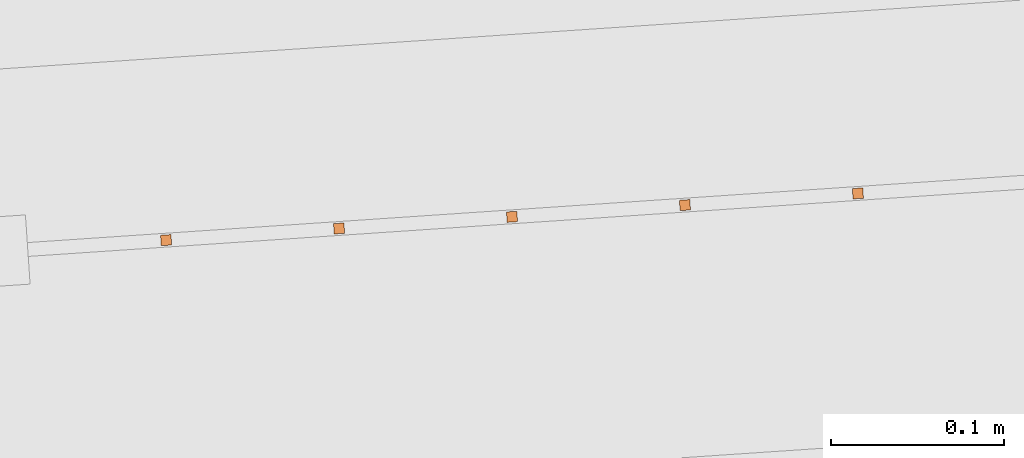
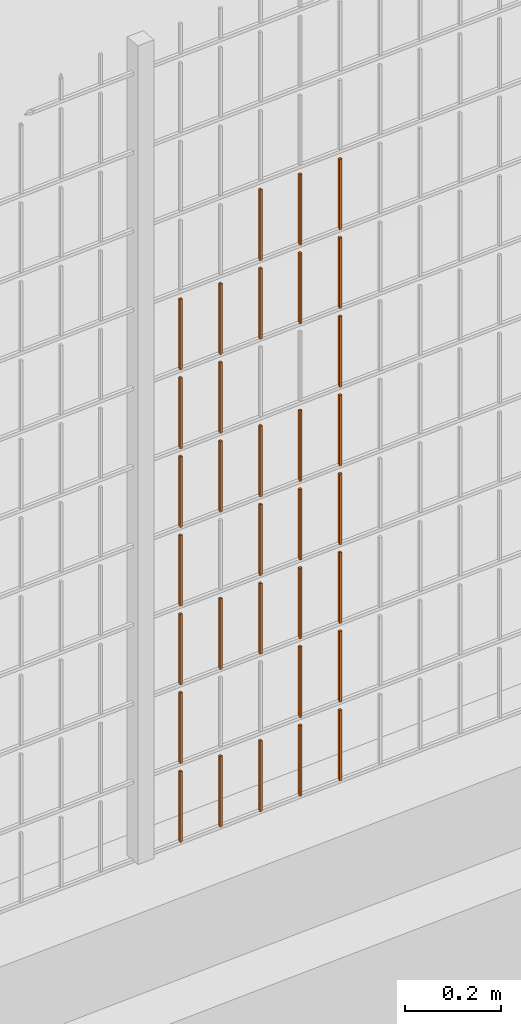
# One storey, part 343 of 1809: 33 proxies, 1 element without a shape of its own.
"""IFC2X3 building model written with IfcOpenShell, lengths in millimetres."""

from ifc_helpers import new_model, entity, si_unit, converted_unit, derived_unit, money_unit, direction, frame, origin_with_axes, place, context, subcontext, project, spatial, faceted_brep, source, transform, mapped, material, type_object, element, aggregate, save


model = new_model("IFC2X3")

# Units and contexts
model_context = context("Model", 3, precision=0.01, world=origin_with_axes(), true_north=direction((0.0, 1.0)))
body_context = subcontext(model_context, "Body", "Model", "MODEL_VIEW")
ifc_project = project(units=[si_unit("LENGTHUNIT", "METRE", prefix="MILLI"), si_unit("AREAUNIT", "SQUARE_METRE"), si_unit("VOLUMEUNIT", "CUBIC_METRE"), converted_unit("PLANEANGLEUNIT", "DEGREE", entity("IfcPlaneAngleMeasure", 0.0174532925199), si_unit("PLANEANGLEUNIT", "RADIAN"), dimensions=[0, 0, 0, 0, 0, 0, 0]), si_unit("SOLIDANGLEUNIT", "STERADIAN"), money_unit("EUR"), converted_unit("TIMEUNIT", "Year", entity("IfcTimeMeasure", 31556926.0), si_unit("TIMEUNIT", "SECOND"), dimensions=[0, 0, 1, 0, 0, 0, 0]), si_unit("MASSUNIT", "GRAM", prefix="KILO"), si_unit("THERMODYNAMICTEMPERATUREUNIT", "DEGREE_CELSIUS"), si_unit("LUMINOUSINTENSITYUNIT", "LUMEN"), si_unit("ENERGYUNIT", "JOULE", prefix="MEGA"), derived_unit("THERMALCONDUCTANCEUNIT", [(si_unit("POWERUNIT", "WATT"), 1), (si_unit("LENGTHUNIT", "METRE"), -1), (si_unit("THERMODYNAMICTEMPERATUREUNIT", "KELVIN"), -1)]), derived_unit("SPECIFICHEATCAPACITYUNIT", [(si_unit("ENERGYUNIT", "JOULE"), 1), (si_unit("MASSUNIT", "GRAM", prefix="KILO"), -1), (si_unit("THERMODYNAMICTEMPERATUREUNIT", "KELVIN"), -1)]), derived_unit("MASSDENSITYUNIT", [(si_unit("MASSUNIT", "GRAM", prefix="KILO"), 1), (si_unit("VOLUMEUNIT", "CUBIC_METRE"), -1)])], contexts=[model_context])

# Site, building, storey
site_placement = place(None, origin_with_axes())
site = spatial("IfcSite", under=ifc_project, at=site_placement, Name="Politse- ja Piirivalveameti ning Päästeameti ühishoone", CompositionType="ELEMENT")
building_placement = place(site_placement, origin_with_axes())
building = spatial("IfcBuilding", under=site, at=building_placement, Name="Politse- ja Piirivalveameti ning Päästeameti ühishoone", CompositionType="ELEMENT")
storey_placement = place(building_placement, origin_with_axes())
storey = spatial("IfcBuildingStorey", under=building, at=storey_placement, Name="Esimene korrus", CompositionType="ELEMENT", Elevation=0.0)

# Proxies
building_element_proxy_type_1 = type_object("IfcBuildingElementProxyType", Name="Railing Type", PredefinedType="NOTDEFINED")
proxy_1_placement = place(storey_placement, frame((89252.001212, -29183.4766571, 203.661247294), z_axis=(0.0, 0.0, 1.0), x_axis=(1.0, 0.0, 0.0)))
proxy_1 = element("IfcBuildingElementProxy", 1, at=proxy_1_placement, inside=storey, type_object=building_element_proxy_type_1, Name="PIIRDEAED")
ifc_material = material(Name="ET-03_Raud")
building_element_proxy_type_2 = type_object("IfcBuildingElementProxyType", Name="IfcBuildingElementProxy", PredefinedType="NOTDEFINED")
shared_shape_1 = source(origin_with_axes(), body_context, "Body", "Brep", [
    faceted_brep([(3.0, 3.0, -0.000752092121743), (-3.0, 3.0, -0.000752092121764), (-3.0, 3.0, 179.99926046), (3.0, 3.0, 179.99926046), (3.0, -3.0, 0.000752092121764), (-3.0, -3.0, 0.000752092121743), (-3.0, -3.0, 180.000764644), (3.0, -3.0, 180.000764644)], [[[0, 1, 2, 3]], [[0, 4, 5, 1]], [[1, 5, 6, 2]], [[3, 2, 6, 7]], [[4, 0, 3, 7]], [[5, 4, 7, 6]]]),
])
proxy_2_placement = place(proxy_1_placement, frame((-29359.787284, -19280.9175928, 19.8571921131), z_axis=(0.0, 0.0, 1.0), x_axis=(1.0, 0.0, 0.0)))
proxy_2 = element("IfcBuildingElementProxy", 2, at=proxy_2_placement, type_object=building_element_proxy_type_2, material=ifc_material, Name="BALUSTER - 001", context=body_context, shape_type="MappedRepresentation", body=[
    mapped(shared_shape_1, transform((0.0, 0.0, 0.0), x_axis=(-0.0673926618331, 0.997726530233, 0.0), y_axis=(-0.997726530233, -0.0673926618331, 0.0), z_axis=(0.0, 0.0, 1.0))),
])
proxy_3_placement = place(proxy_1_placement, frame((-29260.014631, -19274.1783266, 1419.88226185), z_axis=(0.0, 0.0, 1.0), x_axis=(1.0, 0.0, 0.0)))
proxy_3 = element("IfcBuildingElementProxy", 3, at=proxy_3_placement, type_object=building_element_proxy_type_2, material=ifc_material, Name="BALUSTER - 001", context=body_context, shape_type="MappedRepresentation", body=[
    mapped(shared_shape_1, transform((0.0, 0.0, 0.0), x_axis=(-0.0673926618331, 0.997726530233, 0.0), y_axis=(-0.997726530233, -0.0673926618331, 0.0), z_axis=(0.0, 0.0, 1.0))),
])
shared_shape_2 = source(origin_with_axes(), body_context, "Body", "Brep", [
    faceted_brep([(3.0, 3.0, -0.000752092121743), (-3.0, 3.0, -0.000752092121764), (-3.0, 3.0, 179.99926046), (3.0, 3.0, 179.99926046), (3.0, -3.0, 0.000752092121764), (-3.0, -3.0, 0.000752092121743), (-3.0, -3.0, 180.000764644), (3.0, -3.0, 180.000764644)], [[[0, 1, 2, 3]], [[0, 4, 5, 1]], [[1, 5, 6, 2]], [[3, 2, 6, 7]], [[4, 0, 3, 7]], [[5, 4, 7, 6]]]),
])
proxy_4_placement = place(proxy_1_placement, frame((-29359.787284, -19280.9175928, 219.857192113), z_axis=(0.0, 0.0, 1.0), x_axis=(1.0, 0.0, 0.0)))
proxy_4 = element("IfcBuildingElementProxy", 4, at=proxy_4_placement, type_object=building_element_proxy_type_2, material=ifc_material, Name="BALUSTER - 001", context=body_context, shape_type="MappedRepresentation", body=[
    mapped(shared_shape_2, transform((0.0, 0.0, 0.0), x_axis=(-0.0673926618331, 0.997726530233, 0.0), y_axis=(-0.997726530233, -0.0673926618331, 0.0), z_axis=(0.0, 0.0, 1.0))),
])
shared_shape_3 = source(origin_with_axes(), body_context, "Body", "Brep", [
    faceted_brep([(3.0, 3.0, -0.000752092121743), (-3.0, 3.0, -0.000752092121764), (-3.0, 3.0, 179.99926046), (3.0, 3.0, 179.99926046), (3.0, -3.0, 0.000752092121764), (-3.0, -3.0, 0.000752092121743), (-3.0, -3.0, 180.000764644), (3.0, -3.0, 180.000764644)], [[[0, 1, 2, 3]], [[0, 4, 5, 1]], [[1, 5, 6, 2]], [[3, 2, 6, 7]], [[4, 0, 3, 7]], [[5, 4, 7, 6]]]),
])
proxy_5_placement = place(proxy_1_placement, frame((-29359.787284, -19280.9175928, 419.857192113), z_axis=(0.0, 0.0, 1.0), x_axis=(1.0, 0.0, 0.0)))
proxy_5 = element("IfcBuildingElementProxy", 5, at=proxy_5_placement, type_object=building_element_proxy_type_2, material=ifc_material, Name="BALUSTER - 001", context=body_context, shape_type="MappedRepresentation", body=[
    mapped(shared_shape_3, transform((0.0, 0.0, 0.0), x_axis=(-0.0673926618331, 0.997726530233, 0.0), y_axis=(-0.997726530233, -0.0673926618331, 0.0), z_axis=(0.0, 0.0, 1.0))),
])
shared_shape_4 = source(origin_with_axes(), body_context, "Body", "Brep", [
    faceted_brep([(3.0, 3.0, -0.000752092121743), (-3.0, 3.0, -0.000752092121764), (-3.0, 3.0, 179.99926046), (3.0, 3.0, 179.99926046), (3.0, -3.0, 0.000752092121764), (-3.0, -3.0, 0.000752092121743), (-3.0, -3.0, 180.000764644), (3.0, -3.0, 180.000764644)], [[[0, 1, 2, 3]], [[0, 4, 5, 1]], [[1, 5, 6, 2]], [[3, 2, 6, 7]], [[4, 0, 3, 7]], [[5, 4, 7, 6]]]),
])
proxy_6_placement = place(proxy_1_placement, frame((-29359.787284, -19280.9175928, 819.857192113), z_axis=(0.0, 0.0, 1.0), x_axis=(1.0, 0.0, 0.0)))
proxy_6 = element("IfcBuildingElementProxy", 6, at=proxy_6_placement, type_object=building_element_proxy_type_2, material=ifc_material, Name="BALUSTER - 001", context=body_context, shape_type="MappedRepresentation", body=[
    mapped(shared_shape_4, transform((0.0, 0.0, 0.0), x_axis=(-0.0673926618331, 0.997726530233, 0.0), y_axis=(-0.997726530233, -0.0673926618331, 0.0), z_axis=(0.0, 0.0, 1.0))),
])
proxy_7_placement = place(proxy_1_placement, frame((-29260.014631, -19274.1783266, 1219.88226185), z_axis=(0.0, 0.0, 1.0), x_axis=(1.0, 0.0, 0.0)))
proxy_7 = element("IfcBuildingElementProxy", 7, at=proxy_7_placement, type_object=building_element_proxy_type_2, material=ifc_material, Name="BALUSTER - 001", context=body_context, shape_type="MappedRepresentation", body=[
    mapped(shared_shape_4, transform((0.0, 0.0, 0.0), x_axis=(-0.0673926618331, 0.997726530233, 0.0), y_axis=(-0.997726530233, -0.0673926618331, 0.0), z_axis=(0.0, 0.0, 1.0))),
])
shared_shape_5 = source(origin_with_axes(), body_context, "Body", "Brep", [
    faceted_brep([(3.0, 3.0, -0.000752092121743), (-3.0, 3.0, -0.000752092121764), (-3.0, 3.0, 179.99926046), (3.0, 3.0, 179.99926046), (3.0, -3.0, 0.000752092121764), (-3.0, -3.0, 0.000752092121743), (-3.0, -3.0, 180.000764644), (3.0, -3.0, 180.000764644)], [[[0, 1, 2, 3]], [[0, 4, 5, 1]], [[1, 5, 6, 2]], [[3, 2, 6, 7]], [[4, 0, 3, 7]], [[5, 4, 7, 6]]]),
])
proxy_8_placement = place(proxy_1_placement, frame((-29359.787284, -19280.9175928, 619.857192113), z_axis=(0.0, 0.0, 1.0), x_axis=(1.0, 0.0, 0.0)))
proxy_8 = element("IfcBuildingElementProxy", 8, at=proxy_8_placement, type_object=building_element_proxy_type_2, material=ifc_material, Name="BALUSTER - 001", context=body_context, shape_type="MappedRepresentation", body=[
    mapped(shared_shape_5, transform((0.0, 0.0, 0.0), x_axis=(-0.0673926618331, 0.997726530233, 0.0), y_axis=(-0.997726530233, -0.0673926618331, 0.0), z_axis=(0.0, 0.0, 1.0))),
])
shared_shape_6 = source(origin_with_axes(), body_context, "Body", "Brep", [
    faceted_brep([(3.0, 3.0, -0.000752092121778), (-3.0, 3.0, -0.000752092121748), (-3.00000000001, 2.99999999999, 179.99926046), (2.99999999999, 2.99999999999, 179.99926046), (3.0, -3.0, 0.000752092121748), (-3.0, -3.0, 0.000752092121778), (-3.00000000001, -3.00000000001, 180.000764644), (2.99999999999, -3.00000000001, 180.000764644)], [[[0, 1, 2, 3]], [[0, 4, 5, 1]], [[1, 5, 6, 2]], [[3, 2, 6, 7]], [[4, 0, 3, 7]], [[5, 4, 7, 6]]]),
])
proxy_9_placement = place(proxy_1_placement, frame((-29559.3325901, -19294.3961252, 1019.80705264), z_axis=(0.0, 0.0, 1.0), x_axis=(1.0, 0.0, 0.0)))
proxy_9 = element("IfcBuildingElementProxy", 9, at=proxy_9_placement, type_object=building_element_proxy_type_2, material=ifc_material, Name="BALUSTER - 001", context=body_context, shape_type="MappedRepresentation", body=[
    mapped(shared_shape_6, transform((0.0, 0.0, 0.0), x_axis=(-0.0673926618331, 0.997726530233, 0.0), y_axis=(-0.997726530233, -0.0673926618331, 0.0), z_axis=(0.0, 0.0, 1.0))),
])
shared_shape_7 = source(origin_with_axes(), body_context, "Body", "Brep", [
    faceted_brep([(3.0, 3.0, -0.000752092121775), (-3.0, 3.0, -0.000752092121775), (-3.0, 3.0, 179.99926046), (3.0, 3.0, 179.99926046), (3.0, -3.0, 0.000752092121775), (-3.0, -3.0, 0.000752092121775), (-3.0, -3.0, 180.000764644), (3.0, -3.0, 180.000764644)], [[[0, 1, 2, 3]], [[0, 4, 5, 1]], [[1, 5, 6, 2]], [[3, 2, 6, 7]], [[4, 0, 3, 7]], [[5, 4, 7, 6]]]),
])
proxy_10_placement = place(proxy_1_placement, frame((-29659.1052431, -19301.1353914, 19.7819829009), z_axis=(0.0, 0.0, 1.0), x_axis=(1.0, 0.0, 0.0)))
proxy_10 = element("IfcBuildingElementProxy", 10, at=proxy_10_placement, type_object=building_element_proxy_type_2, material=ifc_material, Name="BALUSTER - 001", context=body_context, shape_type="MappedRepresentation", body=[
    mapped(shared_shape_7, transform((0.0, 0.0, 0.0), x_axis=(-0.0673926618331, 0.997726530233, 0.0), y_axis=(-0.997726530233, -0.0673926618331, 0.0), z_axis=(0.0, 0.0, 1.0))),
])
shared_shape_8 = source(origin_with_axes(), body_context, "Body", "Brep", [
    faceted_brep([(3.0, 3.0, -0.000752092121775), (-3.0, 3.0, -0.000752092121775), (-3.0, 3.0, 179.99926046), (3.0, 3.0, 179.99926046), (3.0, -3.0, 0.000752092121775), (-3.0, -3.0, 0.000752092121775), (-3.0, -3.0, 180.000764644), (3.0, -3.0, 180.000764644)], [[[0, 1, 2, 3]], [[0, 4, 5, 1]], [[1, 5, 6, 2]], [[3, 2, 6, 7]], [[4, 0, 3, 7]], [[5, 4, 7, 6]]]),
])
proxy_11_placement = place(proxy_1_placement, frame((-29659.1052431, -19301.1353914, 219.781982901), z_axis=(0.0, 0.0, 1.0), x_axis=(1.0, 0.0, 0.0)))
proxy_11 = element("IfcBuildingElementProxy", 11, at=proxy_11_placement, type_object=building_element_proxy_type_2, material=ifc_material, Name="BALUSTER - 001", context=body_context, shape_type="MappedRepresentation", body=[
    mapped(shared_shape_8, transform((0.0, 0.0, 0.0), x_axis=(-0.0673926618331, 0.997726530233, 0.0), y_axis=(-0.997726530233, -0.0673926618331, 0.0), z_axis=(0.0, 0.0, 1.0))),
])
proxy_12_placement = place(proxy_1_placement, frame((-29659.1052431, -19301.1353914, 419.781982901), z_axis=(0.0, 0.0, 1.0), x_axis=(1.0, 0.0, 0.0)))
proxy_12 = element("IfcBuildingElementProxy", 12, at=proxy_12_placement, type_object=building_element_proxy_type_2, material=ifc_material, Name="BALUSTER - 001", context=body_context, shape_type="MappedRepresentation", body=[
    mapped(shared_shape_8, transform((0.0, 0.0, 0.0), x_axis=(-0.0673926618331, 0.997726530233, 0.0), y_axis=(-0.997726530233, -0.0673926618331, 0.0), z_axis=(0.0, 0.0, 1.0))),
])
shared_shape_9 = source(origin_with_axes(), body_context, "Body", "Brep", [
    faceted_brep([(3.0, 3.0, -0.000752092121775), (-3.0, 3.0, -0.000752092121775), (-3.0, 3.0, 179.99926046), (3.0, 3.0, 179.99926046), (3.0, -3.0, 0.000752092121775), (-3.0, -3.0, 0.000752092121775), (-3.0, -3.0, 180.000764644), (3.0, -3.0, 180.000764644)], [[[0, 1, 2, 3]], [[0, 4, 5, 1]], [[1, 5, 6, 2]], [[3, 2, 6, 7]], [[4, 0, 3, 7]], [[5, 4, 7, 6]]]),
])
proxy_13_placement = place(proxy_1_placement, frame((-29659.1052431, -19301.1353914, 819.781982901), z_axis=(0.0, 0.0, 1.0), x_axis=(1.0, 0.0, 0.0)))
proxy_13 = element("IfcBuildingElementProxy", 13, at=proxy_13_placement, type_object=building_element_proxy_type_2, material=ifc_material, Name="BALUSTER - 001", context=body_context, shape_type="MappedRepresentation", body=[
    mapped(shared_shape_9, transform((0.0, 0.0, 0.0), x_axis=(-0.0673926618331, 0.997726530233, 0.0), y_axis=(-0.997726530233, -0.0673926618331, 0.0), z_axis=(0.0, 0.0, 1.0))),
])
proxy_14_placement = place(proxy_1_placement, frame((-29659.1052431, -19301.1353914, 1219.7819829), z_axis=(0.0, 0.0, 1.0), x_axis=(1.0, 0.0, 0.0)))
proxy_14 = element("IfcBuildingElementProxy", 14, at=proxy_14_placement, type_object=building_element_proxy_type_2, material=ifc_material, Name="BALUSTER - 001", context=body_context, shape_type="MappedRepresentation", body=[
    mapped(shared_shape_9, transform((0.0, 0.0, 0.0), x_axis=(-0.0673926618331, 0.997726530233, 0.0), y_axis=(-0.997726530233, -0.0673926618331, 0.0), z_axis=(0.0, 0.0, 1.0))),
])
shared_shape_10 = source(origin_with_axes(), body_context, "Body", "Brep", [
    faceted_brep([(3.0, 3.0, -0.000752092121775), (-3.0, 3.0, -0.000752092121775), (-3.0, 3.0, 179.99926046), (3.0, 3.0, 179.99926046), (3.0, -3.0, 0.000752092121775), (-3.0, -3.0, 0.000752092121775), (-3.0, -3.0, 180.000764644), (3.0, -3.0, 180.000764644)], [[[0, 1, 2, 3]], [[0, 4, 5, 1]], [[1, 5, 6, 2]], [[3, 2, 6, 7]], [[4, 0, 3, 7]], [[5, 4, 7, 6]]]),
])
proxy_15_placement = place(proxy_1_placement, frame((-29659.1052431, -19301.1353914, 619.781982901), z_axis=(0.0, 0.0, 1.0), x_axis=(1.0, 0.0, 0.0)))
proxy_15 = element("IfcBuildingElementProxy", 15, at=proxy_15_placement, type_object=building_element_proxy_type_2, material=ifc_material, Name="BALUSTER - 001", context=body_context, shape_type="MappedRepresentation", body=[
    mapped(shared_shape_10, transform((0.0, 0.0, 0.0), x_axis=(-0.0673926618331, 0.997726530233, 0.0), y_axis=(-0.997726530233, -0.0673926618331, 0.0), z_axis=(0.0, 0.0, 1.0))),
])
shared_shape_11 = source(origin_with_axes(), body_context, "Body", "Brep", [
    faceted_brep([(3.0, 3.0, -0.000752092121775), (-3.0, 3.0, -0.000752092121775), (-3.0, 3.0, 179.99926046), (3.0, 3.0, 179.99926046), (3.0, -3.0, 0.000752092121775), (-3.0, -3.0, 0.000752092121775), (-3.0, -3.0, 180.000764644), (3.0, -3.0, 180.000764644)], [[[0, 1, 2, 3]], [[0, 4, 5, 1]], [[1, 5, 6, 2]], [[3, 2, 6, 7]], [[4, 0, 3, 7]], [[5, 4, 7, 6]]]),
])
proxy_16_placement = place(proxy_1_placement, frame((-29559.3325901, -19294.3961252, 1219.80705264), z_axis=(0.0, 0.0, 1.0), x_axis=(1.0, 0.0, 0.0)))
proxy_16 = element("IfcBuildingElementProxy", 16, at=proxy_16_placement, type_object=building_element_proxy_type_2, material=ifc_material, Name="BALUSTER - 001", context=body_context, shape_type="MappedRepresentation", body=[
    mapped(shared_shape_11, transform((0.0, 0.0, 0.0), x_axis=(-0.0673926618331, 0.997726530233, 0.0), y_axis=(-0.997726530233, -0.0673926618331, 0.0), z_axis=(0.0, 0.0, 1.0))),
])
shared_shape_12 = source(origin_with_axes(), body_context, "Body", "Brep", [
    faceted_brep([(3.0, 3.0, -0.000752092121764), (-3.0, 3.0, -0.000752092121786), (-3.0, 3.0, 179.99926046), (3.0, 3.0, 179.99926046), (3.0, -3.0, 0.000752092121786), (-3.0, -3.0, 0.000752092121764), (-3.0, -3.0, 180.000764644), (3.0, -3.0, 180.000764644)], [[[0, 1, 2, 3]], [[0, 4, 5, 1]], [[1, 5, 6, 2]], [[3, 2, 6, 7]], [[4, 0, 3, 7]], [[5, 4, 7, 6]]]),
])
proxy_17_placement = place(proxy_1_placement, frame((-29459.5599371, -19287.656859, 19.8321223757), z_axis=(0.0, 0.0, 1.0), x_axis=(1.0, 0.0, 0.0)))
proxy_17 = element("IfcBuildingElementProxy", 17, at=proxy_17_placement, type_object=building_element_proxy_type_2, material=ifc_material, Name="BALUSTER - 001", context=body_context, shape_type="MappedRepresentation", body=[
    mapped(shared_shape_12, transform((0.0, 0.0, 0.0), x_axis=(-0.0673926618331, 0.997726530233, 0.0), y_axis=(-0.997726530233, -0.0673926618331, 0.0), z_axis=(0.0, 0.0, 1.0))),
])
shared_shape_13 = source(origin_with_axes(), body_context, "Body", "Brep", [
    faceted_brep([(3.0, 3.0, -0.000752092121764), (-3.0, 3.0, -0.000752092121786), (-3.0, 3.0, 179.99926046), (3.0, 3.0, 179.99926046), (3.0, -3.0, 0.000752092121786), (-3.0, -3.0, 0.000752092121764), (-3.0, -3.0, 180.000764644), (3.0, -3.0, 180.000764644)], [[[0, 1, 2, 3]], [[0, 4, 5, 1]], [[1, 5, 6, 2]], [[3, 2, 6, 7]], [[4, 0, 3, 7]], [[5, 4, 7, 6]]]),
])
proxy_18_placement = place(proxy_1_placement, frame((-29459.5599371, -19287.656859, 619.832122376), z_axis=(0.0, 0.0, 1.0), x_axis=(1.0, 0.0, 0.0)))
proxy_18 = element("IfcBuildingElementProxy", 18, at=proxy_18_placement, type_object=building_element_proxy_type_2, material=ifc_material, Name="BALUSTER - 001", context=body_context, shape_type="MappedRepresentation", body=[
    mapped(shared_shape_13, transform((0.0, 0.0, 0.0), x_axis=(-0.0673926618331, 0.997726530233, 0.0), y_axis=(-0.997726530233, -0.0673926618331, 0.0), z_axis=(0.0, 0.0, 1.0))),
])
shared_shape_14 = source(origin_with_axes(), body_context, "Body", "Brep", [
    faceted_brep([(3.0, 3.0, -0.000752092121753), (-3.0, 3.0, -0.000752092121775), (-3.0, 3.0, 179.99926046), (3.0, 3.0, 179.99926046), (3.0, -3.0, 0.000752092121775), (-3.0, -3.0, 0.000752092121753), (-3.0, -3.0, 180.000764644), (3.0, -3.0, 180.000764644)], [[[0, 1, 2, 3]], [[0, 4, 5, 1]], [[1, 5, 6, 2]], [[3, 2, 6, 7]], [[4, 0, 3, 7]], [[5, 4, 7, 6]]]),
])
proxy_19_placement = place(proxy_1_placement, frame((-29559.3325901, -19294.3961252, 419.807052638), z_axis=(0.0, 0.0, 1.0), x_axis=(1.0, 0.0, 0.0)))
proxy_19 = element("IfcBuildingElementProxy", 19, at=proxy_19_placement, type_object=building_element_proxy_type_2, material=ifc_material, Name="BALUSTER - 001", context=body_context, shape_type="MappedRepresentation", body=[
    mapped(shared_shape_14, transform((0.0, 0.0, 0.0), x_axis=(-0.0673926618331, 0.997726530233, 0.0), y_axis=(-0.997726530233, -0.0673926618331, 0.0), z_axis=(0.0, 0.0, 1.0))),
])
shared_shape_15 = source(origin_with_axes(), body_context, "Body", "Brep", [
    faceted_brep([(3.0, 3.0, -0.000752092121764), (-3.0, 3.0, -0.000752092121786), (-3.0, 3.0, 179.99926046), (3.0, 3.0, 179.99926046), (3.0, -3.0, 0.000752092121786), (-3.0, -3.0, 0.000752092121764), (-3.0, -3.0, 180.000764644), (3.0, -3.0, 180.000764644)], [[[0, 1, 2, 3]], [[0, 4, 5, 1]], [[1, 5, 6, 2]], [[3, 2, 6, 7]], [[4, 0, 3, 7]], [[5, 4, 7, 6]]]),
])
proxy_20_placement = place(proxy_1_placement, frame((-29459.5599371, -19287.656859, 1219.83212238), z_axis=(0.0, 0.0, 1.0), x_axis=(1.0, 0.0, 0.0)))
proxy_20 = element("IfcBuildingElementProxy", 20, at=proxy_20_placement, type_object=building_element_proxy_type_2, material=ifc_material, Name="BALUSTER - 001", context=body_context, shape_type="MappedRepresentation", body=[
    mapped(shared_shape_15, transform((0.0, 0.0, 0.0), x_axis=(-0.0673926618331, 0.997726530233, 0.0), y_axis=(-0.997726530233, -0.0673926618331, 0.0), z_axis=(0.0, 0.0, 1.0))),
])
shared_shape_16 = source(origin_with_axes(), body_context, "Body", "Brep", [
    faceted_brep([(3.0, 3.0, -0.000752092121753), (-3.0, 3.0, -0.000752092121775), (-3.0, 3.0, 179.99926046), (3.0, 3.0, 179.99926046), (3.0, -3.0, 0.000752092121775), (-3.0, -3.0, 0.000752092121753), (-3.0, -3.0, 180.000764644), (3.0, -3.0, 180.000764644)], [[[0, 1, 2, 3]], [[0, 4, 5, 1]], [[1, 5, 6, 2]], [[3, 2, 6, 7]], [[4, 0, 3, 7]], [[5, 4, 7, 6]]]),
])
proxy_21_placement = place(proxy_1_placement, frame((-29559.3325901, -19294.3961252, 819.807052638), z_axis=(0.0, 0.0, 1.0), x_axis=(1.0, 0.0, 0.0)))
proxy_21 = element("IfcBuildingElementProxy", 21, at=proxy_21_placement, type_object=building_element_proxy_type_2, material=ifc_material, Name="BALUSTER - 001", context=body_context, shape_type="MappedRepresentation", body=[
    mapped(shared_shape_16, transform((0.0, 0.0, 0.0), x_axis=(-0.0673926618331, 0.997726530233, 0.0), y_axis=(-0.997726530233, -0.0673926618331, 0.0), z_axis=(0.0, 0.0, 1.0))),
])
shared_shape_17 = source(origin_with_axes(), body_context, "Body", "Brep", [
    faceted_brep([(3.0, 3.0, -0.000752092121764), (-3.0, 3.0, -0.000752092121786), (-3.0, 3.0, 179.99926046), (3.0, 3.0, 179.99926046), (3.0, -3.0, 0.000752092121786), (-3.0, -3.0, 0.000752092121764), (-3.0, -3.0, 180.000764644), (3.0, -3.0, 180.000764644)], [[[0, 1, 2, 3]], [[0, 4, 5, 1]], [[1, 5, 6, 2]], [[3, 2, 6, 7]], [[4, 0, 3, 7]], [[5, 4, 7, 6]]]),
])
proxy_22_placement = place(proxy_1_placement, frame((-29459.5599371, -19287.656859, 819.832122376), z_axis=(0.0, 0.0, 1.0), x_axis=(1.0, 0.0, 0.0)))
proxy_22 = element("IfcBuildingElementProxy", 22, at=proxy_22_placement, type_object=building_element_proxy_type_2, material=ifc_material, Name="BALUSTER - 001", context=body_context, shape_type="MappedRepresentation", body=[
    mapped(shared_shape_17, transform((0.0, 0.0, 0.0), x_axis=(-0.0673926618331, 0.997726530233, 0.0), y_axis=(-0.997726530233, -0.0673926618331, 0.0), z_axis=(0.0, 0.0, 1.0))),
])
shared_shape_18 = source(origin_with_axes(), body_context, "Body", "Brep", [
    faceted_brep([(3.0, 3.0, -0.000752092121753), (-3.0, 3.0, -0.000752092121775), (-3.0, 3.0, 179.99926046), (3.0, 3.0, 179.99926046), (3.0, -3.0, 0.000752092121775), (-3.0, -3.0, 0.000752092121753), (-3.0, -3.0, 180.000764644), (3.0, -3.0, 180.000764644)], [[[0, 1, 2, 3]], [[0, 4, 5, 1]], [[1, 5, 6, 2]], [[3, 2, 6, 7]], [[4, 0, 3, 7]], [[5, 4, 7, 6]]]),
])
proxy_23_placement = place(proxy_1_placement, frame((-29559.3325901, -19294.3961252, 19.8070526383), z_axis=(0.0, 0.0, 1.0), x_axis=(1.0, 0.0, 0.0)))
proxy_23 = element("IfcBuildingElementProxy", 23, at=proxy_23_placement, type_object=building_element_proxy_type_2, material=ifc_material, Name="BALUSTER - 001", context=body_context, shape_type="MappedRepresentation", body=[
    mapped(shared_shape_18, transform((0.0, 0.0, 0.0), x_axis=(-0.0673926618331, 0.997726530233, 0.0), y_axis=(-0.997726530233, -0.0673926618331, 0.0), z_axis=(0.0, 0.0, 1.0))),
])
shared_shape_19 = source(origin_with_axes(), body_context, "Body", "Brep", [
    faceted_brep([(3.0, 3.0, -0.000752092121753), (-3.0, 3.0, -0.000752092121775), (-3.0, 3.0, 179.99926046), (3.0, 3.0, 179.99926046), (3.0, -3.0, 0.000752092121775), (-3.0, -3.0, 0.000752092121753), (-3.0, -3.0, 180.000764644), (3.0, -3.0, 180.000764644)], [[[0, 1, 2, 3]], [[0, 4, 5, 1]], [[1, 5, 6, 2]], [[3, 2, 6, 7]], [[4, 0, 3, 7]], [[5, 4, 7, 6]]]),
])
proxy_24_placement = place(proxy_1_placement, frame((-29359.787284, -19280.9175928, 1219.85719211), z_axis=(0.0, 0.0, 1.0), x_axis=(1.0, 0.0, 0.0)))
proxy_24 = element("IfcBuildingElementProxy", 24, at=proxy_24_placement, type_object=building_element_proxy_type_2, material=ifc_material, Name="BALUSTER - 001", context=body_context, shape_type="MappedRepresentation", body=[
    mapped(shared_shape_19, transform((0.0, 0.0, 0.0), x_axis=(-0.0673926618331, 0.997726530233, 0.0), y_axis=(-0.997726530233, -0.0673926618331, 0.0), z_axis=(0.0, 0.0, 1.0))),
])
shared_shape_20 = source(origin_with_axes(), body_context, "Body", "Brep", [
    faceted_brep([(3.0, 3.0, -0.000752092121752), (-3.0, 3.0, -0.000752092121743), (-3.00000000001, 2.99999999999, 179.99926046), (2.99999999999, 2.99999999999, 179.99926046), (3.0, -3.0, 0.000752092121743), (-3.0, -3.0, 0.000752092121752), (-3.00000000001, -3.00000000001, 180.000764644), (2.99999999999, -3.00000000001, 180.000764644)], [[[0, 1, 2, 3]], [[0, 4, 5, 1]], [[1, 5, 6, 2]], [[3, 2, 6, 7]], [[4, 0, 3, 7]], [[5, 4, 7, 6]]]),
])
proxy_25_placement = place(proxy_1_placement, frame((-29260.014631, -19274.1783266, 1019.88226185), z_axis=(0.0, 0.0, 1.0), x_axis=(1.0, 0.0, 0.0)))
proxy_25 = element("IfcBuildingElementProxy", 25, at=proxy_25_placement, type_object=building_element_proxy_type_2, material=ifc_material, Name="BALUSTER - 001", context=body_context, shape_type="MappedRepresentation", body=[
    mapped(shared_shape_20, transform((0.0, 0.0, 0.0), x_axis=(-0.0673926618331, 0.997726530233, 0.0), y_axis=(-0.997726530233, -0.0673926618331, 0.0), z_axis=(0.0, 0.0, 1.0))),
])
shared_shape_21 = source(origin_with_axes(), body_context, "Body", "Brep", [
    faceted_brep([(3.0, 3.0, -0.000752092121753), (-3.0, 3.0, -0.000752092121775), (-3.0, 3.0, 179.99926046), (3.0, 3.0, 179.99926046), (3.0, -3.0, 0.000752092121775), (-3.0, -3.0, 0.000752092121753), (-3.0, -3.0, 180.000764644), (3.0, -3.0, 180.000764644)], [[[0, 1, 2, 3]], [[0, 4, 5, 1]], [[1, 5, 6, 2]], [[3, 2, 6, 7]], [[4, 0, 3, 7]], [[5, 4, 7, 6]]]),
])
proxy_26_placement = place(proxy_1_placement, frame((-29359.787284, -19280.9175928, 1419.85719211), z_axis=(0.0, 0.0, 1.0), x_axis=(1.0, 0.0, 0.0)))
proxy_26 = element("IfcBuildingElementProxy", 26, at=proxy_26_placement, type_object=building_element_proxy_type_2, material=ifc_material, Name="BALUSTER - 001", context=body_context, shape_type="MappedRepresentation", body=[
    mapped(shared_shape_21, transform((0.0, 0.0, 0.0), x_axis=(-0.0673926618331, 0.997726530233, 0.0), y_axis=(-0.997726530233, -0.0673926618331, 0.0), z_axis=(0.0, 0.0, 1.0))),
])
shared_shape_22 = source(origin_with_axes(), body_context, "Body", "Brep", [
    faceted_brep([(3.0, 3.0, -0.000752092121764), (-3.0, 3.0, -0.000752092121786), (-3.0, 3.0, 179.99926046), (3.0, 3.0, 179.99926046), (3.0, -3.0, 0.000752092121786), (-3.0, -3.0, 0.000752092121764), (-3.0, -3.0, 180.000764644), (3.0, -3.0, 180.000764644)], [[[0, 1, 2, 3]], [[0, 4, 5, 1]], [[1, 5, 6, 2]], [[3, 2, 6, 7]], [[4, 0, 3, 7]], [[5, 4, 7, 6]]]),
])
proxy_27_placement = place(proxy_1_placement, frame((-29459.5599371, -19287.656859, 1419.83212238), z_axis=(0.0, 0.0, 1.0), x_axis=(1.0, 0.0, 0.0)))
proxy_27 = element("IfcBuildingElementProxy", 27, at=proxy_27_placement, type_object=building_element_proxy_type_2, material=ifc_material, Name="BALUSTER - 001", context=body_context, shape_type="MappedRepresentation", body=[
    mapped(shared_shape_22, transform((0.0, 0.0, 0.0), x_axis=(-0.0673926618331, 0.997726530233, 0.0), y_axis=(-0.997726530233, -0.0673926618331, 0.0), z_axis=(0.0, 0.0, 1.0))),
])
shared_shape_23 = source(origin_with_axes(), body_context, "Body", "Brep", [
    faceted_brep([(3.0, 3.0, -0.000752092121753), (-3.0, 3.0, -0.000752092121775), (-3.0, 3.0, 179.99926046), (3.0, 3.0, 179.99926046), (3.0, -3.0, 0.000752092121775), (-3.0, -3.0, 0.000752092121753), (-3.0, -3.0, 180.000764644), (3.0, -3.0, 180.000764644)], [[[0, 1, 2, 3]], [[0, 4, 5, 1]], [[1, 5, 6, 2]], [[3, 2, 6, 7]], [[4, 0, 3, 7]], [[5, 4, 7, 6]]]),
])
proxy_28_placement = place(proxy_1_placement, frame((-29260.014631, -19274.1783266, 19.8822618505), z_axis=(0.0, 0.0, 1.0), x_axis=(1.0, 0.0, 0.0)))
proxy_28 = element("IfcBuildingElementProxy", 28, at=proxy_28_placement, type_object=building_element_proxy_type_2, material=ifc_material, Name="BALUSTER - 001", context=body_context, shape_type="MappedRepresentation", body=[
    mapped(shared_shape_23, transform((0.0, 0.0, 0.0), x_axis=(-0.0673926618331, 0.997726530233, 0.0), y_axis=(-0.997726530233, -0.0673926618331, 0.0), z_axis=(0.0, 0.0, 1.0))),
])
shared_shape_24 = source(origin_with_axes(), body_context, "Body", "Brep", [
    faceted_brep([(3.0, 3.0, -0.000752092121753), (-3.0, 3.0, -0.000752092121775), (-3.0, 3.0, 179.99926046), (3.0, 3.0, 179.99926046), (3.0, -3.0, 0.000752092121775), (-3.0, -3.0, 0.000752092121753), (-3.0, -3.0, 180.000764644), (3.0, -3.0, 180.000764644)], [[[0, 1, 2, 3]], [[0, 4, 5, 1]], [[1, 5, 6, 2]], [[3, 2, 6, 7]], [[4, 0, 3, 7]], [[5, 4, 7, 6]]]),
])
proxy_29_placement = place(proxy_1_placement, frame((-29260.014631, -19274.1783266, 219.882261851), z_axis=(0.0, 0.0, 1.0), x_axis=(1.0, 0.0, 0.0)))
proxy_29 = element("IfcBuildingElementProxy", 29, at=proxy_29_placement, type_object=building_element_proxy_type_2, material=ifc_material, Name="BALUSTER - 001", context=body_context, shape_type="MappedRepresentation", body=[
    mapped(shared_shape_24, transform((0.0, 0.0, 0.0), x_axis=(-0.0673926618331, 0.997726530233, 0.0), y_axis=(-0.997726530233, -0.0673926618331, 0.0), z_axis=(0.0, 0.0, 1.0))),
])
shared_shape_25 = source(origin_with_axes(), body_context, "Body", "Brep", [
    faceted_brep([(3.0, 3.0, -0.000752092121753), (-3.0, 3.0, -0.000752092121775), (-3.0, 3.0, 179.99926046), (3.0, 3.0, 179.99926046), (3.0, -3.0, 0.000752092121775), (-3.0, -3.0, 0.000752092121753), (-3.0, -3.0, 180.000764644), (3.0, -3.0, 180.000764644)], [[[0, 1, 2, 3]], [[0, 4, 5, 1]], [[1, 5, 6, 2]], [[3, 2, 6, 7]], [[4, 0, 3, 7]], [[5, 4, 7, 6]]]),
])
proxy_30_placement = place(proxy_1_placement, frame((-29260.014631, -19274.1783266, 419.882261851), z_axis=(0.0, 0.0, 1.0), x_axis=(1.0, 0.0, 0.0)))
proxy_30 = element("IfcBuildingElementProxy", 30, at=proxy_30_placement, type_object=building_element_proxy_type_2, material=ifc_material, Name="BALUSTER - 001", context=body_context, shape_type="MappedRepresentation", body=[
    mapped(shared_shape_25, transform((0.0, 0.0, 0.0), x_axis=(-0.0673926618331, 0.997726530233, 0.0), y_axis=(-0.997726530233, -0.0673926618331, 0.0), z_axis=(0.0, 0.0, 1.0))),
])
proxy_31_placement = place(proxy_1_placement, frame((-29260.014631, -19274.1783266, 619.882261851), z_axis=(0.0, 0.0, 1.0), x_axis=(1.0, 0.0, 0.0)))
proxy_31 = element("IfcBuildingElementProxy", 31, at=proxy_31_placement, type_object=building_element_proxy_type_2, material=ifc_material, Name="BALUSTER - 001", context=body_context, shape_type="MappedRepresentation", body=[
    mapped(shared_shape_25, transform((0.0, 0.0, 0.0), x_axis=(-0.0673926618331, 0.997726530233, 0.0), y_axis=(-0.997726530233, -0.0673926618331, 0.0), z_axis=(0.0, 0.0, 1.0))),
])
shared_shape_26 = source(origin_with_axes(), body_context, "Body", "Brep", [
    faceted_brep([(3.0, 3.0, -0.000752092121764), (-3.0, 3.0, -0.000752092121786), (-3.0, 3.0, 179.99926046), (3.0, 3.0, 179.99926046), (3.0, -3.0, 0.000752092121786), (-3.0, -3.0, 0.000752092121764), (-3.0, -3.0, 180.000764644), (3.0, -3.0, 180.000764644)], [[[0, 1, 2, 3]], [[0, 4, 5, 1]], [[1, 5, 6, 2]], [[3, 2, 6, 7]], [[4, 0, 3, 7]], [[5, 4, 7, 6]]]),
])
proxy_32_placement = place(proxy_1_placement, frame((-29459.5599371, -19287.656859, 419.832122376), z_axis=(0.0, 0.0, 1.0), x_axis=(1.0, 0.0, 0.0)))
proxy_32 = element("IfcBuildingElementProxy", 32, at=proxy_32_placement, type_object=building_element_proxy_type_2, material=ifc_material, Name="BALUSTER - 001", context=body_context, shape_type="MappedRepresentation", body=[
    mapped(shared_shape_26, transform((0.0, 0.0, 0.0), x_axis=(-0.0673926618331, 0.997726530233, 0.0), y_axis=(-0.997726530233, -0.0673926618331, 0.0), z_axis=(0.0, 0.0, 1.0))),
])
shared_shape_27 = source(origin_with_axes(), body_context, "Body", "Brep", [
    faceted_brep([(3.0, 3.0, -0.000752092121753), (-3.0, 3.0, -0.000752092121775), (-3.0, 3.0, 179.99926046), (3.0, 3.0, 179.99926046), (3.0, -3.0, 0.000752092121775), (-3.0, -3.0, 0.000752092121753), (-3.0, -3.0, 180.000764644), (3.0, -3.0, 180.000764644)], [[[0, 1, 2, 3]], [[0, 4, 5, 1]], [[1, 5, 6, 2]], [[3, 2, 6, 7]], [[4, 0, 3, 7]], [[5, 4, 7, 6]]]),
])
proxy_33_placement = place(proxy_1_placement, frame((-29260.014631, -19274.1783266, 819.882261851), z_axis=(0.0, 0.0, 1.0), x_axis=(1.0, 0.0, 0.0)))
proxy_33 = element("IfcBuildingElementProxy", 33, at=proxy_33_placement, type_object=building_element_proxy_type_2, material=ifc_material, Name="BALUSTER - 001", context=body_context, shape_type="MappedRepresentation", body=[
    mapped(shared_shape_27, transform((0.0, 0.0, 0.0), x_axis=(-0.0673926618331, 0.997726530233, 0.0), y_axis=(-0.997726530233, -0.0673926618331, 0.0), z_axis=(0.0, 0.0, 1.0))),
])
shared_shape_28 = source(origin_with_axes(), body_context, "Body", "Brep", [
    faceted_brep([(3.0, 3.0, -0.000752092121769), (-3.0, 3.0, -0.00075209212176), (-3.00000000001, 3.0, 179.99926046), (2.99999999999, 3.0, 179.99926046), (3.0, -3.0, 0.00075209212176), (-3.0, -3.0, 0.000752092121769), (-3.00000000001, -3.0, 180.000764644), (2.99999999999, -3.0, 180.000764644)], [[[0, 1, 2, 3]], [[0, 4, 5, 1]], [[1, 5, 6, 2]], [[3, 2, 6, 7]], [[4, 0, 3, 7]], [[5, 4, 7, 6]]]),
])
proxy_34_placement = place(proxy_1_placement, frame((-29659.1052431, -19301.1353914, 1019.7819829), z_axis=(0.0, 0.0, 1.0), x_axis=(1.0, 0.0, 0.0)))
proxy_34 = element("IfcBuildingElementProxy", 34, at=proxy_34_placement, type_object=building_element_proxy_type_2, material=ifc_material, Name="BALUSTER - 001", context=body_context, shape_type="MappedRepresentation", body=[
    mapped(shared_shape_28, transform((0.0, 0.0, 0.0), x_axis=(-0.0673926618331, 0.997726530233, 0.0), y_axis=(-0.997726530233, -0.0673926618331, 0.0), z_axis=(0.0, 0.0, 1.0))),
])
aggregate(proxy_1, [proxy_28, proxy_2, proxy_17, proxy_23, proxy_10, proxy_29, proxy_4, proxy_11, proxy_30, proxy_5, proxy_32, proxy_19, proxy_12, proxy_31, proxy_8, proxy_18, proxy_15, proxy_33, proxy_6, proxy_22, proxy_21, proxy_13, proxy_25, proxy_9, proxy_34, proxy_7, proxy_24, proxy_20, proxy_16, proxy_14, proxy_3, proxy_26, proxy_27])

save(model, "model.ifc")
